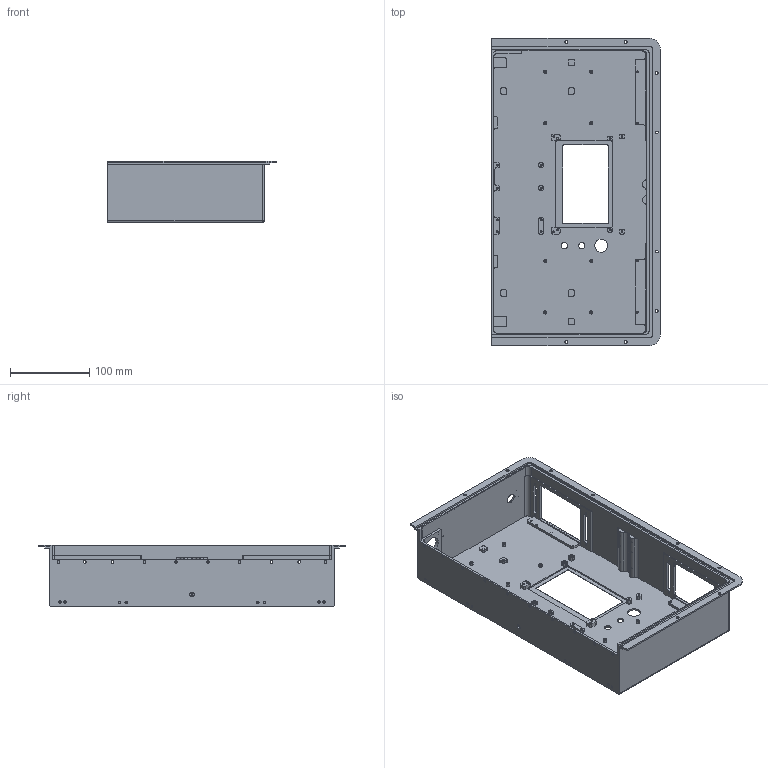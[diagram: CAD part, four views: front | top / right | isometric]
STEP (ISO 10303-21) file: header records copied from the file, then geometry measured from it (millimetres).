
FILE_DESCRIPTION (( 'STEP AP214' ), '1' );
FILE_NAME ('反制盾-盒体2.STEP', '2026-09-29T02:01:42', ( '微软用户' ), ( '微软中国' ), 'SwSTEP 2.0', 'SolidWorks 2016', '' );
FILE_SCHEMA (( 'AUTOMOTIVE_DESIGN' ));
Length unit declared in the file: millimetre
Products named in the file (1): 毀秶嗎-碟极2
Bounding box: 212.5 x 387 x 77.5 mm (x, y, z)
Volume: 307844.5 mm3; surface area: 302337 mm2
Topology: 1 solids, 1 shells, 1559 faces, 4042 edges, 2632 vertices
Faces by surface type: plane 734, cylinder 418, bspline 261, cone 144, sphere 2
Entity records: 62946 total; most frequent: CARTESIAN_POINT 24261, ORIENTED_EDGE 8080, DIRECTION 7072, EDGE_CURVE 4040, VERTEX_POINT 2632, LINE 2562, VECTOR 2562, AXIS2_PLACEMENT_3D 2255
